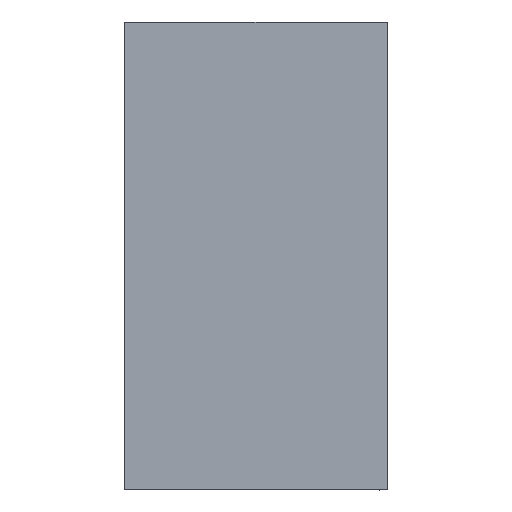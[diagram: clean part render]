
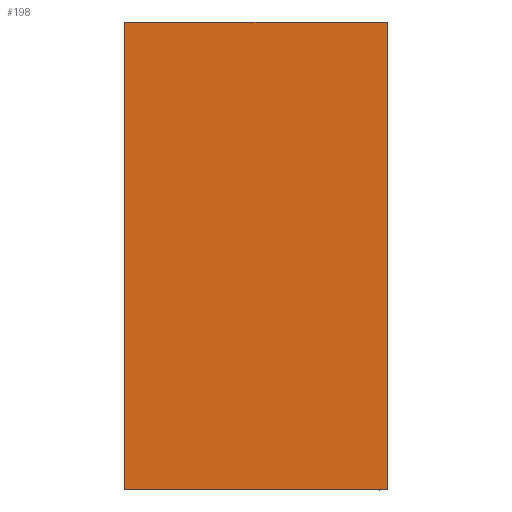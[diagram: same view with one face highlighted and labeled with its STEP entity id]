
A CAD part, left-side view. The second image highlights one B-rep face of the part: STEP entity #198.
In plain terms, the highlighted planar face has unit normal (-1, 0, 0).
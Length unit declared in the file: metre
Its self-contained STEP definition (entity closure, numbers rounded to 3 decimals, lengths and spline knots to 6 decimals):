
#31=LINE('',#288,#49);
#32=LINE('',#290,#50);
#33=LINE('',#292,#51);
#34=LINE('',#294,#52);
#49=VECTOR('',#241,1.);
#50=VECTOR('',#244,1.);
#51=VECTOR('',#245,1.);
#52=VECTOR('',#246,1.);
#71=ORIENTED_EDGE('',*,*,#126,.F.);
#72=ORIENTED_EDGE('',*,*,#125,.T.);
#73=ORIENTED_EDGE('',*,*,#127,.F.);
#74=ORIENTED_EDGE('',*,*,#128,.F.);
#125=EDGE_CURVE('',#151,#152,#31,.T.);
#126=EDGE_CURVE('',#151,#153,#32,.T.);
#127=EDGE_CURVE('',#154,#152,#33,.F.);
#128=EDGE_CURVE('',#153,#154,#34,.T.);
#151=VERTEX_POINT('',#285);
#152=VERTEX_POINT('',#287);
#153=VERTEX_POINT('',#291);
#154=VERTEX_POINT('',#293);
#167=EDGE_LOOP('',(#71,#72,#73,#74));
#179=FACE_BOUND('',#167,.T.);
#191=PLANE('',#217);
#198=ADVANCED_FACE('',(#179),#191,.T.);
#217=AXIS2_PLACEMENT_3D('',#289,#242,#243);
#241=DIRECTION('',(0.,0.,1.));
#242=DIRECTION('',(-1.,0.,0.));
#243=DIRECTION('',(0.,-1.,0.));
#244=DIRECTION('',(0.,1.,0.));
#245=DIRECTION('',(0.,1.,0.));
#246=DIRECTION('',(0.,0.,1.));
#285=CARTESIAN_POINT('',(0.014198,0.00095,-0.0284));
#287=CARTESIAN_POINT('',(0.014198,0.00095,-0.0276));
#288=CARTESIAN_POINT('',(0.014198,0.00095,-0.0284));
#289=CARTESIAN_POINT('',(0.014198,0.0014,-0.0284));
#290=CARTESIAN_POINT('',(0.014198,0.00245,-0.0284));
#291=CARTESIAN_POINT('',(0.014198,0.0014,-0.0284));
#292=CARTESIAN_POINT('',(0.014198,0.00245,-0.0276));
#293=CARTESIAN_POINT('',(0.014198,0.0014,-0.0276));
#294=CARTESIAN_POINT('',(0.014198,0.0014,-0.0284));
